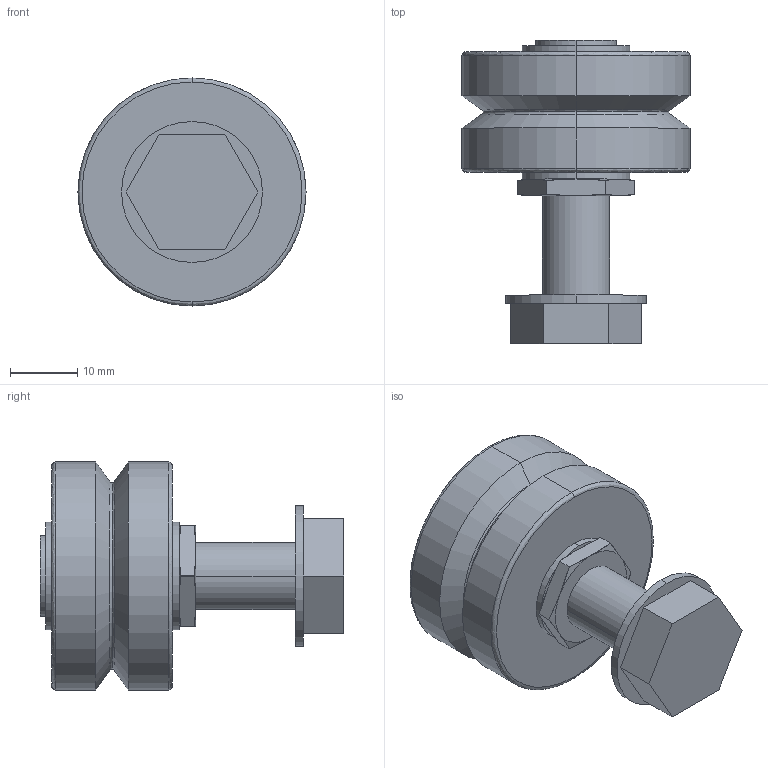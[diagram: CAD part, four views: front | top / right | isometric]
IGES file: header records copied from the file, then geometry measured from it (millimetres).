
Start section: 3D InterOp IGES (Version 21 0 1), Spatial Corp. Copyright (c) 1999-2007.
Global section: file name: RLFJ34CNS.igs; native system: Spatial Corp.; preprocessor: 3D InterOp GENERIC/IGES 3.0; author: Noname; organization: Noname; date: 20220627.163903; units: millimetre
Bounding box: 34 x 45.25 x 34 mm (x, y, z)
Surface area: 9136.4 mm2 (no closed solid volume)
Topology: 0 solids, 0 shells, 69 faces, 296 edges, 296 vertices
Faces by surface type: revolution 40, extrusion 29
